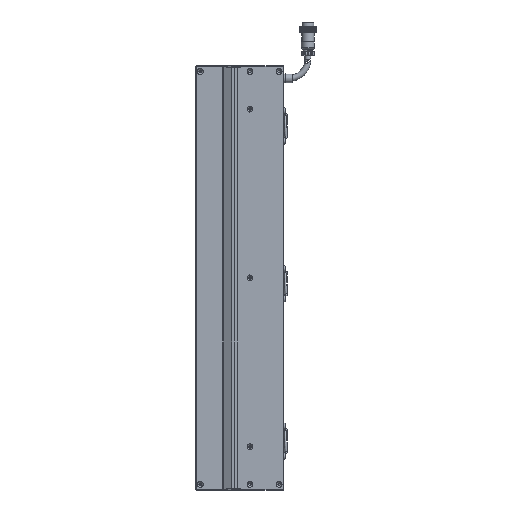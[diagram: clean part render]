
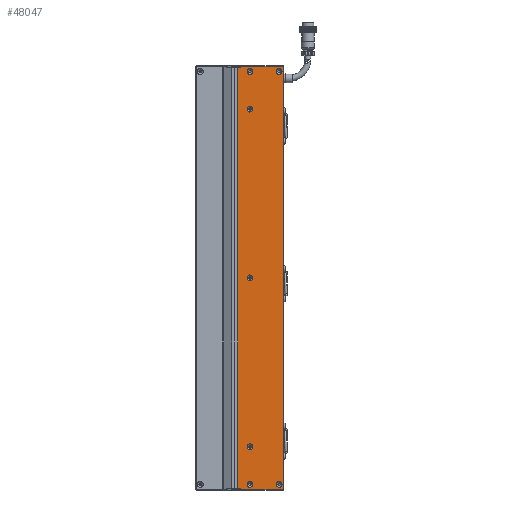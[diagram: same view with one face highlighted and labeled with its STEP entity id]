
A CAD part, left-side view. The second image highlights one B-rep face of the part: STEP entity #48047.
In plain terms, the highlighted planar face has unit normal (-1, 0, 0).
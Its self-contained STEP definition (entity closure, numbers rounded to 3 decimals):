
#821 = DIRECTION ( 'NONE',  ( -1., 0., 0. ) ) ;
#2592 = EDGE_CURVE ( 'NONE', #17762, #17762, #66877, .T. ) ;
#4709 = CARTESIAN_POINT ( 'NONE',  ( -24.998, -72., 224. ) ) ;
#4955 = EDGE_CURVE ( 'NONE', #28919, #28919, #128970, .T. ) ;
#5262 = FACE_BOUND ( 'NONE', #91221, .T. ) ;
#9764 = VERTEX_POINT ( 'NONE', #118655 ) ;
#10143 = DIRECTION ( 'NONE',  ( -1., 0., 0. ) ) ;
#11252 = VERTEX_POINT ( 'NONE', #21845 ) ;
#12012 = VECTOR ( 'NONE', #43908, 1000. ) ;
#13424 = ORIENTED_EDGE ( 'NONE', *, *, #61925, .F. ) ;
#14344 = AXIS2_PLACEMENT_3D ( 'NONE', #45489, #127304, #115270 ) ;
#14424 = VECTOR ( 'NONE', #25250, 1000. ) ;
#16176 = VECTOR ( 'NONE', #86393, 1000. ) ;
#17762 = VERTEX_POINT ( 'NONE', #51217 ) ;
#18051 = CIRCLE ( 'NONE', #107529, 3.15 ) ;
#18075 = CARTESIAN_POINT ( 'NONE',  ( -24.998, -72., 225.5 ) ) ;
#19681 = CARTESIAN_POINT ( 'NONE',  ( -24.998, -26.5, -224. ) ) ;
#20916 = CARTESIAN_POINT ( 'NONE',  ( -24.998, -36.5, 0. ) ) ;
#21845 = CARTESIAN_POINT ( 'NONE',  ( -24.998, -67.5, 223.15 ) ) ;
#22085 = AXIS2_PLACEMENT_3D ( 'NONE', #20916, #821, #52016 ) ;
#22197 = CARTESIAN_POINT ( 'NONE',  ( -24.998, -72., -225.5 ) ) ;
#22769 = DIRECTION ( 'NONE',  ( 0., 0., 1. ) ) ;
#22795 = FACE_BOUND ( 'NONE', #75326, .T. ) ;
#23592 = VERTEX_POINT ( 'NONE', #77286 ) ;
#24811 = LINE ( 'NONE', #63981, #12012 ) ;
#25250 = DIRECTION ( 'NONE',  ( 0., -1., 0. ) ) ;
#26000 = EDGE_LOOP ( 'NONE', ( #13424 ) ) ;
#26947 = CARTESIAN_POINT ( 'NONE',  ( -24.998, -72.5, 224. ) ) ;
#27031 = CARTESIAN_POINT ( 'NONE',  ( -24.998, -26.5, 225.5 ) ) ;
#28919 = VERTEX_POINT ( 'NONE', #122773 ) ;
#32078 = EDGE_CURVE ( 'NONE', #11252, #11252, #65837, .T. ) ;
#32504 = DIRECTION ( 'NONE',  ( 0., 0., 1. ) ) ;
#33667 = CARTESIAN_POINT ( 'NONE',  ( -24.998, -36.5, -220. ) ) ;
#33762 = VERTEX_POINT ( 'NONE', #27031 ) ;
#35329 = PLANE ( 'NONE',  #77589 ) ;
#35416 = CARTESIAN_POINT ( 'NONE',  ( -24.998, -23.25, 224. ) ) ;
#35783 = DIRECTION ( 'NONE',  ( 0., 0., -1. ) ) ;
#36942 = ORIENTED_EDGE ( 'NONE', *, *, #88141, .T. ) ;
#38185 = ORIENTED_EDGE ( 'NONE', *, *, #82679, .F. ) ;
#38532 = VERTEX_POINT ( 'NONE', #76666 ) ;
#39348 = LINE ( 'NONE', #26947, #58510 ) ;
#43456 = FACE_BOUND ( 'NONE', #124734, .T. ) ;
#43544 = ORIENTED_EDGE ( 'NONE', *, *, #65973, .T. ) ;
#43908 = DIRECTION ( 'NONE',  ( 0., 0., -1. ) ) ;
#45489 = CARTESIAN_POINT ( 'NONE',  ( -24.998, -36.5, 220. ) ) ;
#45539 = CARTESIAN_POINT ( 'NONE',  ( -24.998, -67.5, 220. ) ) ;
#45582 = LINE ( 'NONE', #130435, #117567 ) ;
#46625 = FACE_BOUND ( 'NONE', #84113, .T. ) ;
#47644 = ORIENTED_EDGE ( 'NONE', *, *, #102308, .F. ) ;
#48047 = ADVANCED_FACE ( 'NONE', ( #43456, #109049, #5262, #22795, #46625, #110721, #81857, #54568 ), #35329, .F. ) ;
#51217 = CARTESIAN_POINT ( 'NONE',  ( -24.998, -67.5, -216.85 ) ) ;
#52016 = DIRECTION ( 'NONE',  ( 0., 0., 1. ) ) ;
#52152 = EDGE_CURVE ( 'NONE', #98557, #118788, #102393, .T. ) ;
#53105 = VECTOR ( 'NONE', #32504, 1000. ) ;
#53433 = ORIENTED_EDGE ( 'NONE', *, *, #98587, .T. ) ;
#53896 = EDGE_LOOP ( 'NONE', ( #53433, #43544, #36942, #69749, #105092, #114588, #85674, #47644 ) ) ;
#54568 = FACE_OUTER_BOUND ( 'NONE', #53896, .T. ) ;
#58449 = DIRECTION ( 'NONE',  ( 0., 0., -1. ) ) ;
#58510 = VECTOR ( 'NONE', #76950, 1000. ) ;
#59168 = CARTESIAN_POINT ( 'NONE',  ( -24.998, -36.5, 223.15 ) ) ;
#61785 = DIRECTION ( 'NONE',  ( 0., 1., 0. ) ) ;
#61925 = EDGE_CURVE ( 'NONE', #38532, #38532, #18051, .T. ) ;
#63981 = CARTESIAN_POINT ( 'NONE',  ( -24.998, -26.5, 217. ) ) ;
#64122 = AXIS2_PLACEMENT_3D ( 'NONE', #33667, #74683, #84548 ) ;
#64752 = CARTESIAN_POINT ( 'NONE',  ( -24.998, -72.5, 224. ) ) ;
#65837 = CIRCLE ( 'NONE', #130641, 3.15 ) ;
#65973 = EDGE_CURVE ( 'NONE', #76294, #86897, #45582, .T. ) ;
#66238 = CARTESIAN_POINT ( 'NONE',  ( -24.998, -72.5, -224. ) ) ;
#66621 = EDGE_CURVE ( 'NONE', #33762, #100582, #24811, .T. ) ;
#66877 = CIRCLE ( 'NONE', #123772, 3.15 ) ;
#67141 = ORIENTED_EDGE ( 'NONE', *, *, #117802, .F. ) ;
#67249 = CARTESIAN_POINT ( 'NONE',  ( -24.998, -36.5, -176.85 ) ) ;
#67647 = DIRECTION ( 'NONE',  ( 0., 0., 1. ) ) ;
#69594 = ORIENTED_EDGE ( 'NONE', *, *, #4955, .F. ) ;
#69749 = ORIENTED_EDGE ( 'NONE', *, *, #52152, .T. ) ;
#70291 = CARTESIAN_POINT ( 'NONE',  ( -24.998, -26.5, -225.5 ) ) ;
#70376 = DIRECTION ( 'NONE',  ( 0., 0., 1. ) ) ;
#72737 = DIRECTION ( 'NONE',  ( -1., 0., 0. ) ) ;
#74683 = DIRECTION ( 'NONE',  ( -1., 0., 0. ) ) ;
#75067 = DIRECTION ( 'NONE',  ( 1., 0., 0. ) ) ;
#75326 = EDGE_LOOP ( 'NONE', ( #67141 ) ) ;
#75717 = CIRCLE ( 'NONE', #78742, 3.15 ) ;
#76294 = VERTEX_POINT ( 'NONE', #19681 ) ;
#76430 = DIRECTION ( 'NONE',  ( 0., 0., 1. ) ) ;
#76666 = CARTESIAN_POINT ( 'NONE',  ( -24.998, -36.5, 183.15 ) ) ;
#76950 = DIRECTION ( 'NONE',  ( 0., -1., 0. ) ) ;
#77286 = CARTESIAN_POINT ( 'NONE',  ( -24.998, -23.25, -224. ) ) ;
#77589 = AXIS2_PLACEMENT_3D ( 'NONE', #64752, #75067, #35783 ) ;
#78742 = AXIS2_PLACEMENT_3D ( 'NONE', #108355, #127538, #67647 ) ;
#79018 = EDGE_CURVE ( 'NONE', #118788, #33762, #127266, .T. ) ;
#81180 = ORIENTED_EDGE ( 'NONE', *, *, #32078, .F. ) ;
#81573 = LINE ( 'NONE', #106090, #14424 ) ;
#81857 = FACE_BOUND ( 'NONE', #26000, .T. ) ;
#82604 = CARTESIAN_POINT ( 'NONE',  ( -24.998, -36.5, 180. ) ) ;
#82679 = EDGE_CURVE ( 'NONE', #83254, #83254, #75717, .T. ) ;
#83254 = VERTEX_POINT ( 'NONE', #67249 ) ;
#84113 = EDGE_LOOP ( 'NONE', ( #38185 ) ) ;
#84548 = DIRECTION ( 'NONE',  ( 0., 0., 1. ) ) ;
#84651 = VERTEX_POINT ( 'NONE', #59168 ) ;
#85674 = ORIENTED_EDGE ( 'NONE', *, *, #92732, .F. ) ;
#86393 = DIRECTION ( 'NONE',  ( 0., 0., 1. ) ) ;
#86897 = VERTEX_POINT ( 'NONE', #70291 ) ;
#88141 = EDGE_CURVE ( 'NONE', #86897, #98557, #81573, .T. ) ;
#91221 = EDGE_LOOP ( 'NONE', ( #81180 ) ) ;
#91342 = EDGE_CURVE ( 'NONE', #9764, #9764, #109913, .T. ) ;
#92732 = EDGE_CURVE ( 'NONE', #107006, #100582, #39348, .T. ) ;
#94541 = CIRCLE ( 'NONE', #14344, 3.15 ) ;
#95217 = LINE ( 'NONE', #66238, #100122 ) ;
#96119 = ORIENTED_EDGE ( 'NONE', *, *, #2592, .F. ) ;
#98557 = VERTEX_POINT ( 'NONE', #22197 ) ;
#98587 = EDGE_CURVE ( 'NONE', #23592, #76294, #95217, .T. ) ;
#99359 = CARTESIAN_POINT ( 'NONE',  ( -24.998, -26.5, 224. ) ) ;
#100122 = VECTOR ( 'NONE', #106084, 1000. ) ;
#100582 = VERTEX_POINT ( 'NONE', #99359 ) ;
#100693 = ORIENTED_EDGE ( 'NONE', *, *, #91342, .F. ) ;
#102308 = EDGE_CURVE ( 'NONE', #23592, #107006, #129995, .T. ) ;
#102393 = LINE ( 'NONE', #4709, #16176 ) ;
#105092 = ORIENTED_EDGE ( 'NONE', *, *, #79018, .T. ) ;
#106084 = DIRECTION ( 'NONE',  ( 0., -1., 0. ) ) ;
#106090 = CARTESIAN_POINT ( 'NONE',  ( -24.998, -72.5, -225.5 ) ) ;
#107006 = VERTEX_POINT ( 'NONE', #35416 ) ;
#107529 = AXIS2_PLACEMENT_3D ( 'NONE', #82604, #72737, #22769 ) ;
#108355 = CARTESIAN_POINT ( 'NONE',  ( -24.998, -36.5, -180. ) ) ;
#108657 = EDGE_LOOP ( 'NONE', ( #100693 ) ) ;
#109049 = FACE_BOUND ( 'NONE', #108657, .T. ) ;
#109913 = CIRCLE ( 'NONE', #64122, 3.15 ) ;
#110721 = FACE_BOUND ( 'NONE', #113820, .T. ) ;
#111067 = CARTESIAN_POINT ( 'NONE',  ( -24.998, -67.5, -220. ) ) ;
#111161 = CARTESIAN_POINT ( 'NONE',  ( -24.998, -23.25, -224. ) ) ;
#113820 = EDGE_LOOP ( 'NONE', ( #69594 ) ) ;
#114588 = ORIENTED_EDGE ( 'NONE', *, *, #66621, .T. ) ;
#115270 = DIRECTION ( 'NONE',  ( 0., 0., 1. ) ) ;
#115424 = CARTESIAN_POINT ( 'NONE',  ( -24.998, -72.5, 225.5 ) ) ;
#116100 = VECTOR ( 'NONE', #61785, 1000. ) ;
#117567 = VECTOR ( 'NONE', #58449, 1000. ) ;
#117802 = EDGE_CURVE ( 'NONE', #84651, #84651, #94541, .T. ) ;
#118655 = CARTESIAN_POINT ( 'NONE',  ( -24.998, -36.5, -216.85 ) ) ;
#118788 = VERTEX_POINT ( 'NONE', #18075 ) ;
#122773 = CARTESIAN_POINT ( 'NONE',  ( -24.998, -36.5, 3.15 ) ) ;
#123772 = AXIS2_PLACEMENT_3D ( 'NONE', #111067, #10143, #70376 ) ;
#124734 = EDGE_LOOP ( 'NONE', ( #96119 ) ) ;
#126032 = DIRECTION ( 'NONE',  ( -1., 0., 0. ) ) ;
#127266 = LINE ( 'NONE', #115424, #116100 ) ;
#127304 = DIRECTION ( 'NONE',  ( -1., 0., 0. ) ) ;
#127538 = DIRECTION ( 'NONE',  ( -1., 0., 0. ) ) ;
#128970 = CIRCLE ( 'NONE', #22085, 3.15 ) ;
#129995 = LINE ( 'NONE', #111161, #53105 ) ;
#130435 = CARTESIAN_POINT ( 'NONE',  ( -24.998, -26.5, -217. ) ) ;
#130641 = AXIS2_PLACEMENT_3D ( 'NONE', #45539, #126032, #76430 ) ;
